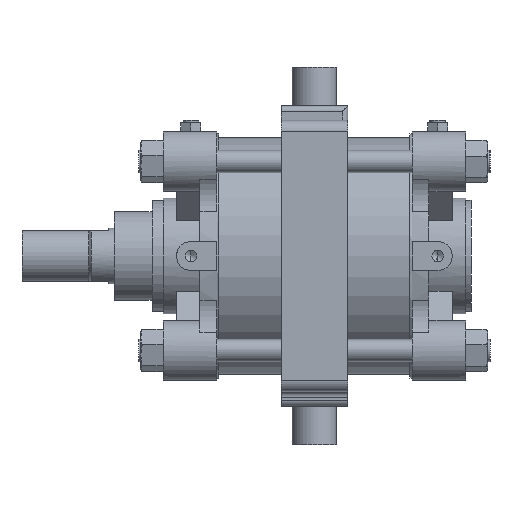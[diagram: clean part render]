
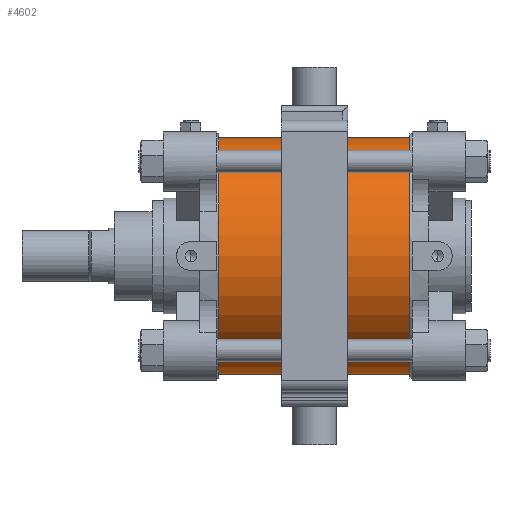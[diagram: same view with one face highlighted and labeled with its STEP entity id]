
A CAD part, front view. The second image highlights one B-rep face of the part: STEP entity #4602.
In plain terms, the highlighted cylindrical face has radius 106.5 mm (diameter 213 mm), a partial arc.
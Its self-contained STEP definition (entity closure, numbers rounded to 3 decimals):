
#60 = CARTESIAN_POINT ( 'NONE',  ( 86., 0., 0. ) ) ;
#690 = DIRECTION ( 'NONE',  ( 0., 0., -1. ) ) ;
#992 = DIRECTION ( 'NONE',  ( -1., 0., 0. ) ) ;
#1297 = EDGE_CURVE ( 'NONE', #5574, #3358, #9001, .T. ) ;
#2694 = FACE_OUTER_BOUND ( 'NONE', #5089, .T. ) ;
#3111 = CARTESIAN_POINT ( 'NONE',  ( -86., 0., 106.5 ) ) ;
#3358 = VERTEX_POINT ( 'NONE', #5365 ) ;
#3443 = ORIENTED_EDGE ( 'NONE', *, *, #1297, .F. ) ;
#3567 = CYLINDRICAL_SURFACE ( 'NONE', #10413, 106.5 ) ;
#4517 = ORIENTED_EDGE ( 'NONE', *, *, #10465, .T. ) ;
#4602 = ADVANCED_FACE ( 'NONE', ( #2694 ), #3567, .T. ) ;
#4703 = DIRECTION ( 'NONE',  ( -1., 0., 0. ) ) ;
#4880 = LINE ( 'NONE', #8107, #10227 ) ;
#5089 = EDGE_LOOP ( 'NONE', ( #3443, #11020, #9144, #4517 ) ) ;
#5365 = CARTESIAN_POINT ( 'NONE',  ( -86., 0., -106.5 ) ) ;
#5574 = VERTEX_POINT ( 'NONE', #9202 ) ;
#5961 = DIRECTION ( 'NONE',  ( 0., 0., -1. ) ) ;
#6001 = CARTESIAN_POINT ( 'NONE',  ( 86., 0., 106.5 ) ) ;
#6151 = AXIS2_PLACEMENT_3D ( 'NONE', #7476, #9454, #690 ) ;
#6852 = CARTESIAN_POINT ( 'NONE',  ( 86., 0., -106.5 ) ) ;
#7178 = CIRCLE ( 'NONE', #6151, 106.5 ) ;
#7476 = CARTESIAN_POINT ( 'NONE',  ( -86., 0., 0. ) ) ;
#8041 = DIRECTION ( 'NONE',  ( 0., 0., 1. ) ) ;
#8107 = CARTESIAN_POINT ( 'NONE',  ( 86., 0., 106.5 ) ) ;
#8796 = VERTEX_POINT ( 'NONE', #3111 ) ;
#8845 = CIRCLE ( 'NONE', #10504, 106.5 ) ;
#9001 = LINE ( 'NONE', #6852, #10042 ) ;
#9144 = ORIENTED_EDGE ( 'NONE', *, *, #10389, .T. ) ;
#9202 = CARTESIAN_POINT ( 'NONE',  ( 86., 0., -106.5 ) ) ;
#9454 = DIRECTION ( 'NONE',  ( 1., 0., 0. ) ) ;
#9810 = VERTEX_POINT ( 'NONE', #6001 ) ;
#9921 = EDGE_CURVE ( 'NONE', #9810, #5574, #8845, .T. ) ;
#9939 = CARTESIAN_POINT ( 'NONE',  ( 86., 0., 0. ) ) ;
#10042 = VECTOR ( 'NONE', #992, 1000. ) ;
#10216 = DIRECTION ( 'NONE',  ( -1., 0., 0. ) ) ;
#10227 = VECTOR ( 'NONE', #4703, 1000. ) ;
#10389 = EDGE_CURVE ( 'NONE', #9810, #8796, #4880, .T. ) ;
#10413 = AXIS2_PLACEMENT_3D ( 'NONE', #60, #10216, #8041 ) ;
#10465 = EDGE_CURVE ( 'NONE', #8796, #3358, #7178, .T. ) ;
#10504 = AXIS2_PLACEMENT_3D ( 'NONE', #9939, #11043, #5961 ) ;
#11020 = ORIENTED_EDGE ( 'NONE', *, *, #9921, .F. ) ;
#11043 = DIRECTION ( 'NONE',  ( 1., 0., 0. ) ) ;
